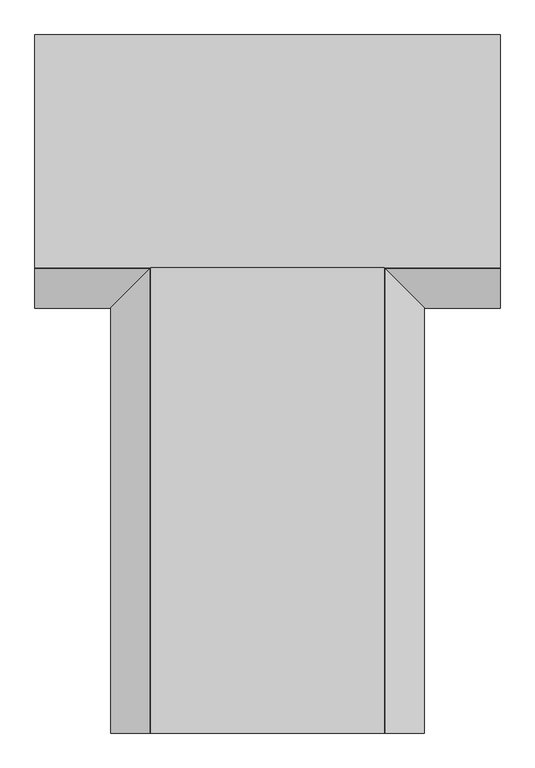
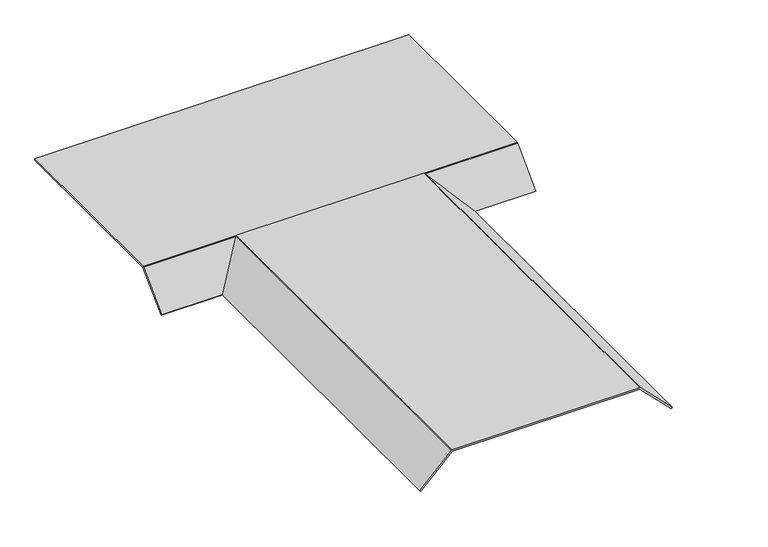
"""IFC4 building model written with IfcOpenShell, lengths in millimetres: cable carrier fitting geometry, Electrical_Installation_Hager_Horizontal-Tee : Electrical_Installation_Hager_Horizontal-Tee."""

from ifc_helpers import new_model, si_unit, frame, origin, place, context, project, spatial, circle_curve, ellipse_curve, source, transform, mapped, element, save
from ifc_brep_helpers import plane_surface, cylinder_surface, advanced_brep


def cable_carrier_fitting_48e664ff(model_context):
    return source(origin(), model_context, "Body", "AdvancedBrep", [
        advanced_brep(
        [(200.2983289, -1000.7845905, 37.5), (267.6155751, -1000.7845905, -29.8172462), (269.7368955, -1000.7845905, -27.6959259), (202.5756976, -1000.7845905, 39.4652721), (200.7845905, -1000.7845905, 40.5), (-200.7845905, -1000.7845905, 40.5), (-202.5756976, -1000.7845905, 39.4652721), (-269.7368955, -1000.7845905, -27.6959259), (-267.6155751, -1000.7845905, -29.8172462), (-200.2983289, -1000.7845905, 37.5), (200.7845905, -200.7845905, 40.5), (-200.7845905, -200.7845905, 40.5), (269.7368955, -268.9805163, -27.6959259), (202.5756976, -201.8193184, 39.4652721), (267.6155751, -271.1018367, -29.8172462), (200.2983289, -203.7845905, 37.5), (-200.2983289, -203.7845905, 37.5), (-267.6155751, -271.1018367, -29.8172462), (-269.7368955, -268.9805163, -27.6959259), (-202.5756976, -201.8193184, 39.4652721)],
        [
            (0, 1),
            (1, 2),
            (2, 3),
            (3, 4, circle_curve(frame((199.7472704, -1000.7845905, 36.6368449), z_axis=(0.0, -1.0, 0.0), x_axis=(-1.0000000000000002, 0.0, 0.0)), 4.0)),
            (4, 5),
            (5, 6, circle_curve(frame((-199.7472704, -1000.7845905, 36.6368449), z_axis=(0.0, -1.0, 0.0), x_axis=(-1.0000000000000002, 0.0, 0.0)), 4.0)),
            (6, 7),
            (7, 8),
            (8, 9),
            (9, 0),
            (4, 10),
            (10, 11),
            (11, 5),
            (2, 12),
            (12, 13),
            (13, 3),
            (1, 14),
            (14, 12),
            (0, 15),
            (15, 14),
            (9, 16),
            (16, 15),
            (13, 10, ellipse_curve(frame((199.7472704, -204.6477455, 36.6368449), z_axis=(0.0, -0.7071067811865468, 0.7071067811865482), x_axis=(0.0, 0.7071067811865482, 0.7071067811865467)), 5.6568542, 4.0)),
            (8, 17),
            (17, 16),
            (7, 18),
            (18, 17),
            (6, 19),
            (19, 18),
            (11, 19, ellipse_curve(frame((-199.7472704, -204.6477455, 36.6368449), z_axis=(0.0, -0.7071067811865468, 0.7071067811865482), x_axis=(0.0, 0.7071067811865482, 0.7071067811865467)), 5.6568542, 4.0)),
        ],
        [
            plane_surface(frame((-200.0, -1000.7845905, 37.5), z_axis=(0.0, -1.0, 0.0), x_axis=(0.0, 0.0, -1.0))),
            plane_surface(frame((-200.0, -200.7845905, 40.5), z_axis=(0.0, 0.0, 1.0), x_axis=(0.0, -1.0, 0.0))),
            plane_surface(frame((202.5756976, -200.7845905, 39.4652721), z_axis=(0.7071067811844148, 0.0, 0.7071067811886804), x_axis=(0.0, -1.0, 0.0))),
            plane_surface(frame((269.7368955, -200.7845905, -27.6959259), z_axis=(0.7071067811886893, 0.0, -0.7071067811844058), x_axis=(0.0, -1.0, 0.0))),
            plane_surface(frame((267.6155751, -200.7845905, -29.8172462), z_axis=(-0.7071067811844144, 0.0, -0.7071067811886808), x_axis=(0.0, -1.0, 0.0))),
            plane_surface(frame((200.2983289, -200.7845905, 37.5), z_axis=(0.0, 0.0, -1.0), x_axis=(0.0, -1.0, 0.0))),
            cylinder_surface(frame((199.7472704, -1000.7845905, 36.6368449), z_axis=(0.0, 1.0000000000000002, 0.0), x_axis=(-1.0000000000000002, 0.0, 0.0)), 4.0),
            plane_surface(frame((-200.2983289, -200.7845905, 37.5), z_axis=(0.7071067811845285, 0.0, -0.7071067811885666), x_axis=(0.0, -1.0, 0.0))),
            plane_surface(frame((-267.6155751, -200.7845905, -29.8172462), z_axis=(-0.7071067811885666, 0.0, -0.7071067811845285), x_axis=(0.0, -1.0, 0.0))),
            plane_surface(frame((-269.7368955, -200.7845905, -27.6959259), z_axis=(-0.707106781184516, 0.0, 0.7071067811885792), x_axis=(0.0, -1.0, 0.0))),
            cylinder_surface(frame((-199.7472704, -1000.7845905, 36.6368449), z_axis=(0.0, 1.0000000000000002, 0.0), x_axis=(-1.0000000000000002, 0.0, 0.0)), 4.0),
            plane_surface(frame((625.0595214, -200.7845905, 40.5), z_axis=(0.0, 0.7071067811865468, -0.7071067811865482), x_axis=(-1.0, 0.0, 0.0))),
        ],
        [
            (0, [[1, 2, 3, 4, 5, 6, 7, 8, 9, 10]]),
            (1, [[11, 12, 13, -5]]),
            (2, [[-3, 14, 15, 16]]),
            (3, [[-2, 17, 18, -14]]),
            (4, [[-1, 19, 20, -17]]),
            (5, [[-10, 21, 22, -19]]),
            (6, [[-4, -16, 23, -11]]),
            (7, [[-9, 24, 25, -21]]),
            (8, [[-8, 26, 27, -24]]),
            (9, [[-7, 28, 29, -26]]),
            (10, [[-6, -13, 30, -28]]),
            (11, [[-12, -23, -15, -18, -20, -22, -25, -27, -29, -30]]),
        ],
    ),
        advanced_brep(
        [(400.0, 200.0, 37.5), (400.0, 200.0, 40.5), (400.0, -200.7845905, 40.5), (400.0, -202.5756976, 39.4652721), (400.0, -269.7368955, -27.6959259), (400.0, -267.6155751, -29.8172462), (400.0, -200.2983289, 37.5), (-400.0, 200.0, 37.5), (-400.0, -200.2983289, 37.5), (-400.0, -267.6155751, -29.8172462), (-400.0, -269.7368955, -27.6959259), (-400.0, -202.5756976, 39.4652721), (-400.0, -200.7845905, 40.5), (-400.0, 200.0, 40.5), (-50.0, -269.7368955, -27.6959259), (-50.0, -231.5213203, 10.5196493), (50.0, -231.5213203, 10.5196493), (50.0, -269.7368955, -27.6959259), (50.0, -267.6155751, -29.8172462), (-50.0, -267.6155751, -29.8172462), (50.0, -231.5213203, 6.2770086), (-50.0, -231.5213203, 6.2770086)],
        [
            (0, 1),
            (1, 2),
            (2, 3, circle_curve(frame((400.0, -199.7472704, 36.6368449), z_axis=(1.0, 0.0, 0.0), x_axis=(0.0, 1.0, 0.0)), 4.0)),
            (3, 4),
            (4, 5),
            (5, 6),
            (6, 0),
            (7, 8),
            (8, 9),
            (9, 10),
            (10, 11),
            (11, 12, circle_curve(frame((-400.0, -199.7472704, 36.6368449), z_axis=(-1.0, 0.0, 0.0), x_axis=(0.0, 1.0, 0.0)), 4.0)),
            (12, 13),
            (13, 7),
            (0, 7),
            (13, 1),
            (12, 2),
            (3, 11),
            (10, 14),
            (14, 15),
            (15, 16),
            (16, 17),
            (17, 4),
            (17, 18),
            (18, 5),
            (9, 19),
            (19, 14),
            (18, 20),
            (20, 21),
            (21, 19),
            (8, 6),
            (20, 16),
            (15, 21),
        ],
        [
            plane_surface(frame((400.0, 200.0, 40.5), z_axis=(1.0, 0.0, 0.0), x_axis=(0.0, 0.0, 1.0))),
            plane_surface(frame((-400.0, 200.0, 40.5), z_axis=(-1.0, 0.0, 0.0), x_axis=(0.0, 0.0, -1.0))),
            plane_surface(frame((400.0, 200.0, 37.5), z_axis=(0.0, 1.0, 0.0), x_axis=(-1.0, 0.0, 0.0))),
            plane_surface(frame((400.0, 200.0, 40.5), z_axis=(0.0, 0.0, 1.0), x_axis=(-1.0, 0.0, 0.0))),
            plane_surface(frame((400.0, -202.5756976, 39.4652721), z_axis=(0.0, -0.707106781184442, 0.7071067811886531), x_axis=(-1.0, 0.0, 0.0))),
            plane_surface(frame((400.0, -269.7368955, -27.6959259), z_axis=(0.0, -0.7071067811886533, -0.7071067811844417), x_axis=(-1.0, 0.0, 0.0))),
            plane_surface(frame((400.0, -267.6155751, -29.8172462), z_axis=(0.0, 0.707106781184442, -0.707106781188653), x_axis=(-1.0, 0.0, 0.0))),
            plane_surface(frame((400.0, -200.2983289, 37.5), z_axis=(0.0, 0.0, -1.0), x_axis=(-1.0, 0.0, 0.0))),
            plane_surface(frame((50.0, -231.5213203, 250.0), z_axis=(0.0, -1.0, 0.0), x_axis=(0.0, 0.0, -1.0))),
            plane_surface(frame((-50.0, -231.5213203, 250.0), z_axis=(1.0, 0.0, 0.0), x_axis=(0.0, 0.0, -1.0))),
            plane_surface(frame((50.0, -326.2152728, 250.0), z_axis=(-1.0, 0.0, 0.0), x_axis=(0.0, 0.0, -1.0))),
            cylinder_surface(frame((-400.0, -199.7472704, 36.6368449), z_axis=(1.0, 0.0, 0.0), x_axis=(0.0, 1.0, 0.0)), 4.0),
        ],
        [
            (0, [[1, 2, 3, 4, 5, 6, 7]]),
            (1, [[8, 9, 10, 11, 12, 13, 14]]),
            (2, [[-1, 15, -14, 16]]),
            (3, [[-2, -16, -13, 17]]),
            (4, [[-4, 18, -11, 19, 20, 21, 22, 23]]),
            (5, [[-5, -23, 24, 25]]),
            (5, [[-10, 26, 27, -19]]),
            (6, [[-6, -25, 28, 29, 30, -26, -9, 31]]),
            (7, [[-7, -31, -8, -15]]),
            (8, [[32, -21, 33, -29]]),
            (9, [[-33, -20, -27, -30]]),
            (10, [[-32, -28, -24, -22]]),
            (11, [[-3, -17, -12, -18]]),
        ],
    ),
    ])


if __name__ == "__main__":
    model = new_model("IFC4")
    model_context = context("Model", 3, world=origin())
    ifc_project = project(units=[si_unit("LENGTHUNIT", "METRE", prefix="MILLI")], contexts=[model_context])
    site = spatial("IfcSite", under=ifc_project)
    building = spatial("IfcBuilding", under=site)
    placement = place(None, origin())
    cable_carrier_fitting_shape = cable_carrier_fitting_48e664ff(model_context)
    element("IfcCableCarrierFitting", 1, ObjectType="Electrical_Installation_Hager_Horizontal-Tee : Electrical_Installation_Hager_Horizontal-Tee", at=placement, inside=building, context=model_context, shape_type="MappedRepresentation", body=[
        mapped(cable_carrier_fitting_shape, transform((0.0, 0.0, 0.0), x_axis=(1.0, 0.0, 0.0), y_axis=(0.0, 1.0, 0.0), z_axis=(0.0, 0.0, 1.0))),
    ])
    save(model, "model.ifc")
